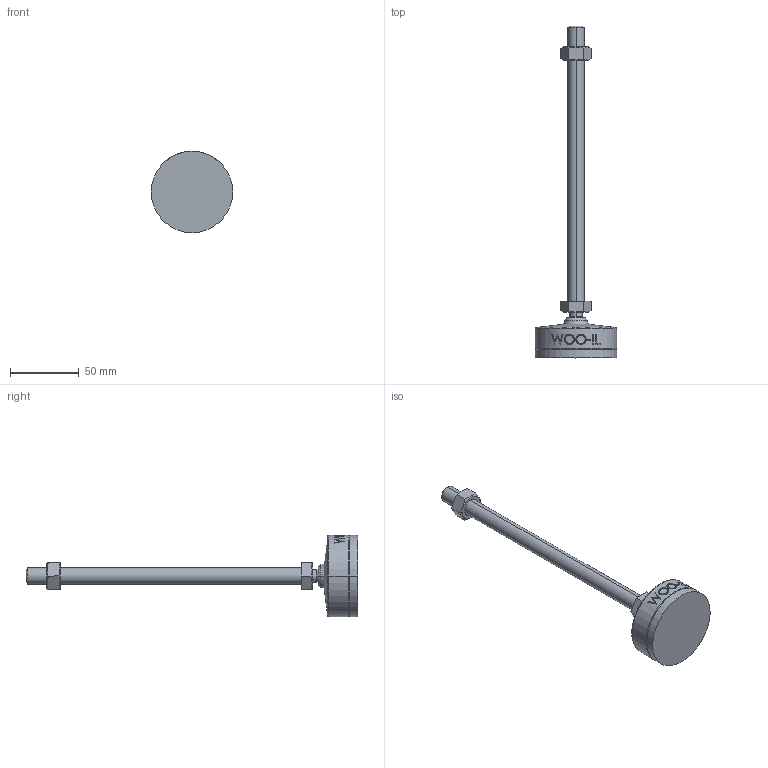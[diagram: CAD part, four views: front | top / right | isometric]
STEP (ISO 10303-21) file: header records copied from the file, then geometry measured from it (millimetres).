
FILE_DESCRIPTION (( 'STEP AP214' ), '1' );
FILE_NAME ('MFNR59-M12-200.step', '2021-02-22T09:06:14', ( '' ), ( '' ), 'SwSTEP 2.0', 'SolidWorks 2019', '' );
FILE_SCHEMA (( 'AUTOMOTIVE_DESIGN' ));
Length unit declared in the file: millimetre
Products named in the file (2): MFNR59-M12-200
Bounding box: 59 x 241 x 59 mm (x, y, z)
Volume: 91484.3 mm3; surface area: 19945.8 mm2
Topology: 2 solids, 2 shells, 105 faces, 245 edges, 156 vertices
Faces by surface type: plane 47, cone 18, cylinder 18, bspline 16, torus 4, sphere 2
Entity records: 4515 total; most frequent: CARTESIAN_POINT 2178, ORIENTED_EDGE 490, DIRECTION 437, EDGE_CURVE 245, AXIS2_PLACEMENT_3D 167, VERTEX_POINT 156, EDGE_LOOP 119, FACE_OUTER_BOUND 105
